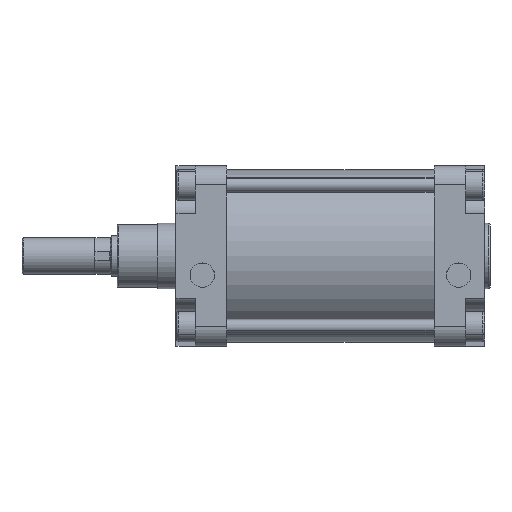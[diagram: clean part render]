
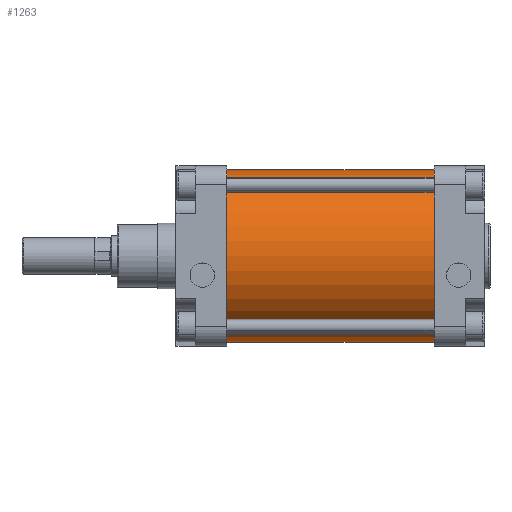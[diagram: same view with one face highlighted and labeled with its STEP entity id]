
A CAD part, top view. The second image highlights one B-rep face of the part: STEP entity #1263.
In plain terms, the highlighted cylindrical face has radius 85 mm (diameter 170 mm), a partial arc.
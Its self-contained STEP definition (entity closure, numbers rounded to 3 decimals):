
#853=CARTESIAN_POINT('Axis2P3D Location',(0.,0.,0.)) ;
#857=CARTESIAN_POINT('Vertex',(0.,85.,0.)) ;
#859=CARTESIAN_POINT('Vertex',(0.,-85.,0.)) ;
#1233=CARTESIAN_POINT('Axis2P3D Location',(102.5,0.,0.)) ;
#1238=CARTESIAN_POINT('Line Origine',(102.5,85.,0.)) ;
#1242=CARTESIAN_POINT('Vertex',(205.,85.,0.)) ;
#1245=CARTESIAN_POINT('Line Origine',(102.5,-85.,0.)) ;
#1249=CARTESIAN_POINT('Vertex',(205.,-85.,0.)) ;
#1252=CARTESIAN_POINT('Axis2P3D Location',(205.,0.,0.)) ;
#854=DIRECTION('Axis2P3D Direction',(1.,0.,0.)) ;
#1234=DIRECTION('Axis2P3D Direction',(1.,0.,0.)) ;
#1235=DIRECTION('Axis2P3D XDirection',(0.,1.,0.)) ;
#1239=DIRECTION('Vector Direction',(1.,0.,0.)) ;
#1246=DIRECTION('Vector Direction',(1.,0.,0.)) ;
#1253=DIRECTION('Axis2P3D Direction',(1.,0.,0.)) ;
#855=AXIS2_PLACEMENT_3D('Circle Axis2P3D',#853,#854,$) ;
#1236=AXIS2_PLACEMENT_3D('Cylinder Axis2P3D',#1233,#1234,#1235) ;
#1254=AXIS2_PLACEMENT_3D('Circle Axis2P3D',#1252,#1253,$) ;
#1258=ORIENTED_EDGE('',*,*,#1244,.F.) ;
#1259=ORIENTED_EDGE('',*,*,#861,.T.) ;
#1260=ORIENTED_EDGE('',*,*,#1251,.T.) ;
#1261=ORIENTED_EDGE('',*,*,#1256,.F.) ;
#1240=VECTOR('Line Direction',#1239,1.) ;
#1247=VECTOR('Line Direction',#1246,1.) ;
#1263=ADVANCED_FACE('PartBody',(#1262),#1237,.T.) ;
#856=CIRCLE('generated circle',#855,85.) ;
#1255=CIRCLE('generated circle',#1254,85.) ;
#1237=CYLINDRICAL_SURFACE('generated cylinder',#1236,85.) ;
#861=EDGE_CURVE('',#858,#860,#856,.T.) ;
#1244=EDGE_CURVE('',#858,#1243,#1241,.T.) ;
#1251=EDGE_CURVE('',#860,#1250,#1248,.T.) ;
#1256=EDGE_CURVE('',#1243,#1250,#1255,.T.) ;
#1257=EDGE_LOOP('',(#1258,#1259,#1260,#1261)) ;
#1262=FACE_OUTER_BOUND('',#1257,.T.) ;
#1241=LINE('Line',#1238,#1240) ;
#1248=LINE('Line',#1245,#1247) ;
#858=VERTEX_POINT('',#857) ;
#860=VERTEX_POINT('',#859) ;
#1243=VERTEX_POINT('',#1242) ;
#1250=VERTEX_POINT('',#1249) ;
